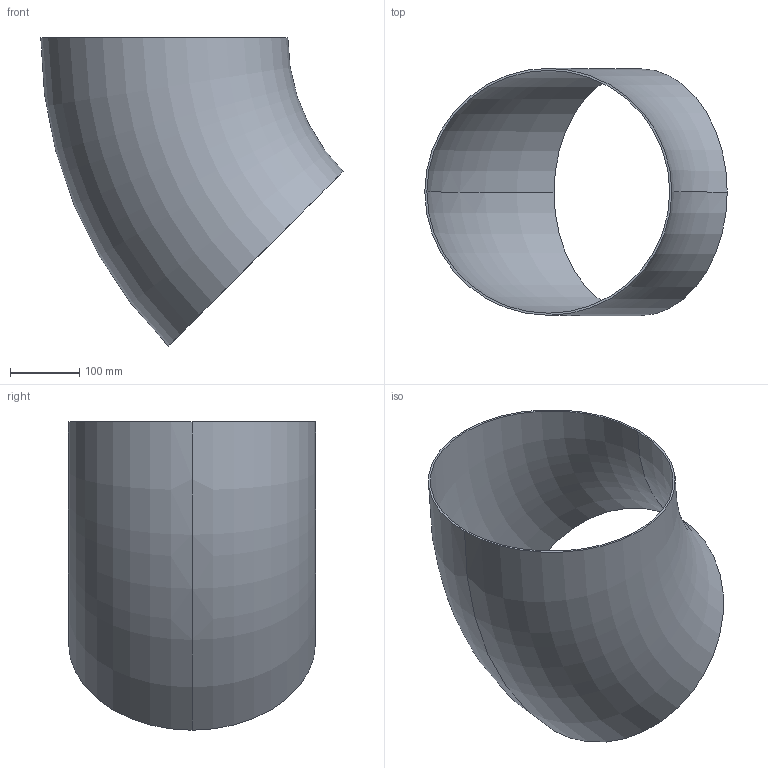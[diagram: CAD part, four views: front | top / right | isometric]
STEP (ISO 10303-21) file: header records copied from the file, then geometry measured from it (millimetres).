
FILE_DESCRIPTION (( 'STEP AP203' ), '1' );
FILE_NAME ('3D_R1650_355.6x3_17352010.STEP', '2024-08-03T09:23:59', ( '' ), ( '' ), 'SwSTEP 2.0', 'SolidWorks 2024', '' );
FILE_SCHEMA (( 'CONFIG_CONTROL_DESIGN' ));
Length unit declared in the file: millimetre
Products named in the file (1): 3D_R1650_355.6x3_17352010
Bounding box: 435.33 x 355.6 x 443.92 mm (x, y, z)
Volume: 1174507.6 mm3; surface area: 789651.4 mm2
Topology: 1 solids, 1 shells, 6 faces, 12 edges, 8 vertices
Faces by surface type: torus 4, plane 2
Entity records: 249 total; most frequent: DIRECTION 38, CARTESIAN_POINT 27, ORIENTED_EDGE 24, AXIS2_PLACEMENT_3D 19, EDGE_CURVE 12, CIRCLE 12, PERSON_AND_ORGANIZATION 8, VERTEX_POINT 8
